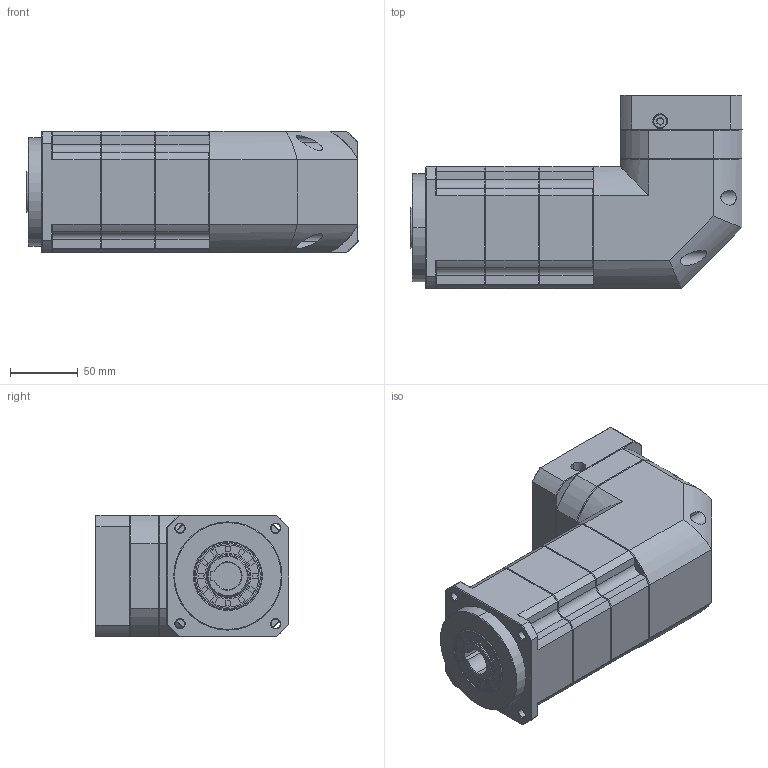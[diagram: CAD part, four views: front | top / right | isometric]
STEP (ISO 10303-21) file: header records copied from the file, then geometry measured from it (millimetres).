
FILE_DESCRIPTION (( 'STEP AP214' ), '1' );
FILE_NAME ('ZPBR090-K20-L3-P1-19-80-100-M6.step', '2024-06-07T18:42:51', ( 'Windows 蚚誧' ), ( 'Organization' ), 'SwSTEP 2.0', 'SolidWorks 2016', '' );
FILE_SCHEMA (( 'AUTOMOTIVE_DESIGN' ));
Length unit declared in the file: millimetre
Products named in the file (1): ZPBR090-K20-L3-P1-19-80-100-M6
Bounding box: 245.5 x 143 x 90 mm (x, y, z)
Surface area: 145086.4 mm2 (no closed solid volume)
Topology: 0 solids, 33 shells, 1930 faces, 5055 edges, 3212 vertices
Faces by surface type: plane 1033, bspline 368, cone 278, cylinder 236, torus 15
Entity records: 87040 total; most frequent: CARTESIAN_POINT 38806, ORIENTED_EDGE 10089, DIRECTION 7959, EDGE_CURVE 5055, LINE 3347, VECTOR 3347, VERTEX_POINT 3212, AXIS2_PLACEMENT_3D 2306
